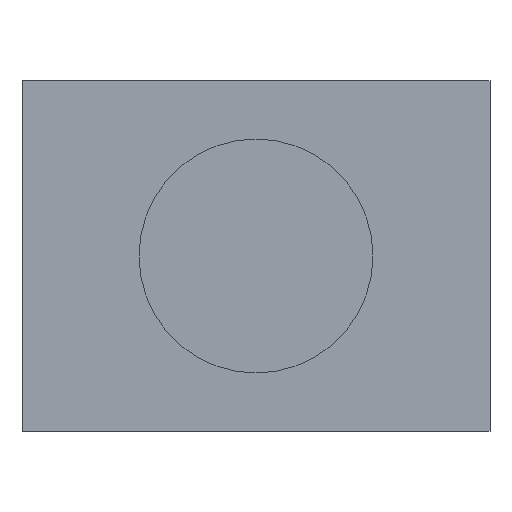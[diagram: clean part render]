
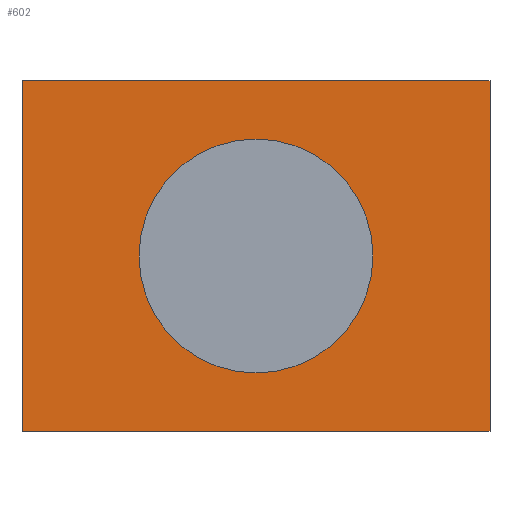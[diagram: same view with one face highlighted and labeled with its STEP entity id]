
A CAD part, front view. The second image highlights one B-rep face of the part: STEP entity #602.
In plain terms, the highlighted planar face has unit normal (0, -1, 0).
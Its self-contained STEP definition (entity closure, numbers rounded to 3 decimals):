
#34 = DIRECTION ( 'NONE',  ( 1., 0., 0. ) ) ;
#46 = LINE ( 'NONE', #820, #244 ) ;
#74 = EDGE_CURVE ( 'NONE', #730, #915, #307, .T. ) ;
#82 = ORIENTED_EDGE ( 'NONE', *, *, #232, .F. ) ;
#107 = CARTESIAN_POINT ( 'NONE',  ( 4., -11., 6. ) ) ;
#129 = FACE_BOUND ( 'NONE', #402, .T. ) ;
#143 = CIRCLE ( 'NONE', #353, 2. ) ;
#202 = EDGE_LOOP ( 'NONE', ( #375, #360, #82, #856 ) ) ;
#204 = CARTESIAN_POINT ( 'NONE',  ( -4., -11., 0. ) ) ;
#209 = CARTESIAN_POINT ( 'NONE',  ( 0., -11., 3. ) ) ;
#215 = VERTEX_POINT ( 'NONE', #107 ) ;
#228 = CARTESIAN_POINT ( 'NONE',  ( -4., -11., 6. ) ) ;
#232 = EDGE_CURVE ( 'NONE', #730, #215, #46, .T. ) ;
#235 = VERTEX_POINT ( 'NONE', #787 ) ;
#239 = CIRCLE ( 'NONE', #549, 2. ) ;
#244 = VECTOR ( 'NONE', #34, 1000. ) ;
#289 = DIRECTION ( 'NONE',  ( 0., -1., 0. ) ) ;
#298 = DIRECTION ( 'NONE',  ( 0., 0., -1. ) ) ;
#307 = LINE ( 'NONE', #634, #393 ) ;
#346 = LINE ( 'NONE', #734, #812 ) ;
#353 = AXIS2_PLACEMENT_3D ( 'NONE', #209, #289, #298 ) ;
#360 = ORIENTED_EDGE ( 'NONE', *, *, #635, .F. ) ;
#361 = LINE ( 'NONE', #204, #421 ) ;
#375 = ORIENTED_EDGE ( 'NONE', *, *, #417, .T. ) ;
#393 = VECTOR ( 'NONE', #925, 1000. ) ;
#402 = EDGE_LOOP ( 'NONE', ( #514, #422 ) ) ;
#411 = CARTESIAN_POINT ( 'NONE',  ( 4., -11., 0. ) ) ;
#417 = EDGE_CURVE ( 'NONE', #915, #478, #361, .T. ) ;
#421 = VECTOR ( 'NONE', #964, 1000. ) ;
#422 = ORIENTED_EDGE ( 'NONE', *, *, #778, .F. ) ;
#438 = DIRECTION ( 'NONE',  ( 0., 1., 0. ) ) ;
#478 = VERTEX_POINT ( 'NONE', #411 ) ;
#514 = ORIENTED_EDGE ( 'NONE', *, *, #616, .F. ) ;
#525 = DIRECTION ( 'NONE',  ( 0., 0., -1. ) ) ;
#526 = VERTEX_POINT ( 'NONE', #727 ) ;
#549 = AXIS2_PLACEMENT_3D ( 'NONE', #738, #745, #811 ) ;
#602 = ADVANCED_FACE ( 'NONE', ( #129, #637 ), #832, .F. ) ;
#616 = EDGE_CURVE ( 'NONE', #526, #235, #239, .T. ) ;
#634 = CARTESIAN_POINT ( 'NONE',  ( -4., -11., 6. ) ) ;
#635 = EDGE_CURVE ( 'NONE', #215, #478, #346, .T. ) ;
#637 = FACE_OUTER_BOUND ( 'NONE', #202, .T. ) ;
#654 = AXIS2_PLACEMENT_3D ( 'NONE', #947, #438, #913 ) ;
#687 = CARTESIAN_POINT ( 'NONE',  ( -4., -11., 0. ) ) ;
#727 = CARTESIAN_POINT ( 'NONE',  ( 0., -11., 1. ) ) ;
#730 = VERTEX_POINT ( 'NONE', #228 ) ;
#734 = CARTESIAN_POINT ( 'NONE',  ( 4., -11., 6. ) ) ;
#738 = CARTESIAN_POINT ( 'NONE',  ( 0., -11., 3. ) ) ;
#745 = DIRECTION ( 'NONE',  ( 0., -1., 0. ) ) ;
#778 = EDGE_CURVE ( 'NONE', #235, #526, #143, .T. ) ;
#787 = CARTESIAN_POINT ( 'NONE',  ( 0., -11., 5. ) ) ;
#811 = DIRECTION ( 'NONE',  ( 0., 0., -1. ) ) ;
#812 = VECTOR ( 'NONE', #525, 1000. ) ;
#820 = CARTESIAN_POINT ( 'NONE',  ( -4., -11., 6. ) ) ;
#832 = PLANE ( 'NONE',  #654 ) ;
#856 = ORIENTED_EDGE ( 'NONE', *, *, #74, .T. ) ;
#913 = DIRECTION ( 'NONE',  ( 0., 0., 1. ) ) ;
#915 = VERTEX_POINT ( 'NONE', #687 ) ;
#925 = DIRECTION ( 'NONE',  ( 0., 0., -1. ) ) ;
#947 = CARTESIAN_POINT ( 'NONE',  ( -4., -11., 6. ) ) ;
#964 = DIRECTION ( 'NONE',  ( 1., 0., 0. ) ) ;
